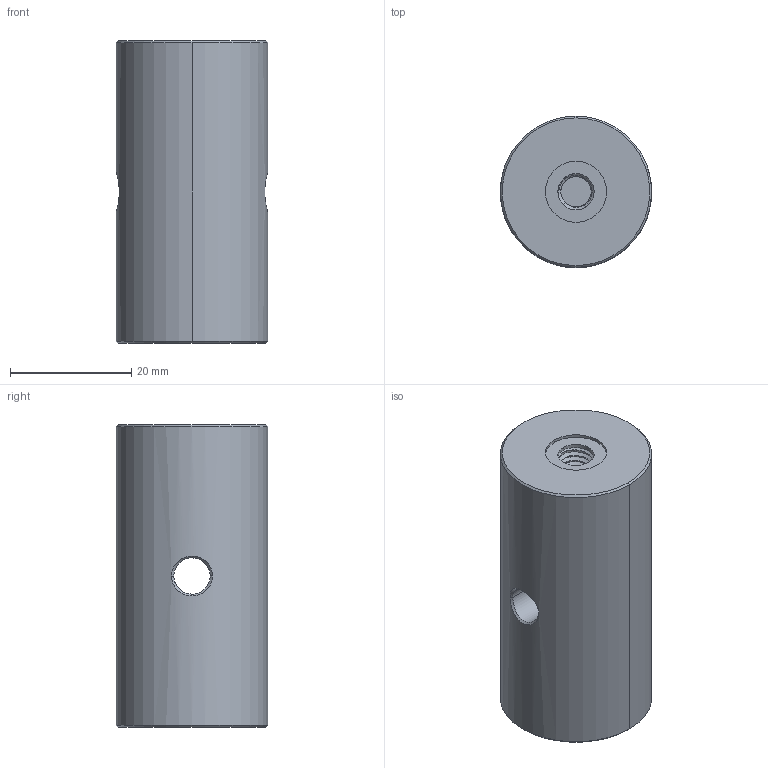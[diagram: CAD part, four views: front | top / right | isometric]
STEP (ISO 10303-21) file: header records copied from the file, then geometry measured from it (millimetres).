
FILE_DESCRIPTION((''),'2;1');
FILE_NAME('PFC-50-S2','2022-10-10T',('daizh'),(''),'CREO PARAMETRIC BY PTC INC, 2018360','CREO PARAMETRIC BY PTC INC, 2018360','');
FILE_SCHEMA(('CONFIG_CONTROL_DESIGN'));
Length unit declared in the file: millimetre
Products named in the file (1): PFC-50-S2
Bounding box: 25 x 25 x 50 mm (x, y, z)
Volume: 23478.8 mm3; surface area: 5620.3 mm2
Topology: 1 solids, 1 shells, 75 faces, 192 edges, 123 vertices
Faces by surface type: cylinder 42, bspline 22, plane 7, cone 4
Entity records: 5567 total; most frequent: CARTESIAN_POINT 3954, ORIENTED_EDGE 384, DIRECTION 220, EDGE_CURVE 192, VERTEX_POINT 123, B_SPLINE_CURVE_WITH_KNOTS 101, EDGE_LOOP 81, AXIS2_PLACEMENT_3D 76
